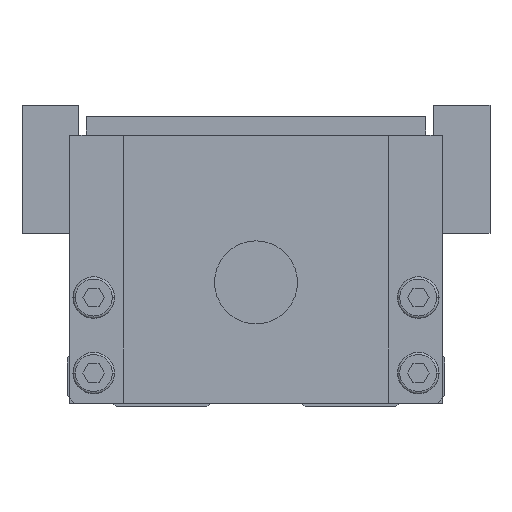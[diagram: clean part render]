
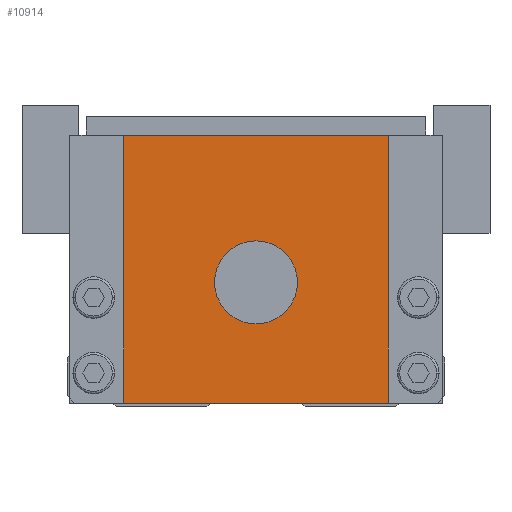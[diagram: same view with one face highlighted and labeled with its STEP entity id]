
A CAD part, front view. The second image highlights one B-rep face of the part: STEP entity #10914.
In plain terms, the highlighted planar face has unit normal (0, -1, 0).
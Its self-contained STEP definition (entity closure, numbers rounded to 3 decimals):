
#3994=VERTEX_POINT('',#11923);
#4272=EDGE_CURVE('',#7620,#3994,#12234,.T.);
#4918=VERTEX_POINT('',#12944);
#5174=EDGE_CURVE('',#11006,#10892,#13229,.T.);
#5404=EDGE_CURVE('',#7620,#10892,#13479,.T.);
#5822=EDGE_CURVE('',#4918,#11548,#13948,.T.);
#6098=EDGE_CURVE('',#11548,#4918,#14249,.T.);
#6934=EDGE_CURVE('',#3994,#11006,#15178,.T.);
#7620=VERTEX_POINT('',#15939);
#10892=VERTEX_POINT('',#19609);
#10914=ADVANCED_FACE('',(#19635,#19636),#19637,.F.);
#11006=VERTEX_POINT('',#19744);
#11548=VERTEX_POINT('',#20344);
#11923=CARTESIAN_POINT('',(17.5,0.0,36.0));
#12234=LINE('',#21217,#21218);
#12944=CARTESIAN_POINT('',(5.5,0.0,16.5));
#13229=LINE('',#22634,#22635);
#13479=LINE('',#22979,#22980);
#13948=CIRCLE('',#23629,5.5);
#14249=CIRCLE('',#24036,5.5);
#15178=LINE('',#25347,#25348);
#15939=CARTESIAN_POINT('',(-17.5,0.0,36.0));
#19609=CARTESIAN_POINT('',(-17.5,0.0,0.5));
#19635=FACE_BOUND('',#31719,.T.);
#19636=FACE_OUTER_BOUND('',#31720,.T.);
#19637=PLANE('',#31721);
#19744=CARTESIAN_POINT('',(17.5,0.0,0.5));
#20344=CARTESIAN_POINT('',(-5.5,0.0,16.5));
#21217=CARTESIAN_POINT('',(0.0,0.0,36.0));
#21218=VECTOR('',#33677,1.0);
#22634=CARTESIAN_POINT('',(0.0,0.0,0.5));
#22635=VECTOR('',#34814,1.0);
#22979=CARTESIAN_POINT('',(-17.5,0.0,18.25));
#22980=VECTOR('',#35073,1.0);
#23629=AXIS2_PLACEMENT_3D('',#35627,#35628,#35629);
#24036=AXIS2_PLACEMENT_3D('',#35950,#35951,#35952);
#25347=CARTESIAN_POINT('',(17.5,0.0,18.25));
#25348=VECTOR('',#36979,1.0);
#31719=EDGE_LOOP('',(#42114,#42115));
#31720=EDGE_LOOP('',(#42116,#42117,#42118,#42119));
#31721=AXIS2_PLACEMENT_3D('',#42120,#42121,#42122);
#33677=DIRECTION('',(1.0,0.0,0.0));
#34814=DIRECTION('',(-1.0,0.0,0.0));
#35073=DIRECTION('',(0.0,0.0,-1.0));
#35627=CARTESIAN_POINT('',(0.0,0.0,16.5));
#35628=DIRECTION('',(-0.0,1.0,0.0));
#35629=DIRECTION('',(1.0,0.0,0.0));
#35950=CARTESIAN_POINT('',(0.0,0.0,16.5));
#35951=DIRECTION('',(-0.0,1.0,0.0));
#35952=DIRECTION('',(1.0,0.0,0.0));
#36979=DIRECTION('',(0.0,0.0,-1.0));
#42114=ORIENTED_EDGE('',*,*,#5822,.T.);
#42115=ORIENTED_EDGE('',*,*,#6098,.T.);
#42116=ORIENTED_EDGE('',*,*,#5404,.T.);
#42117=ORIENTED_EDGE('',*,*,#5174,.F.);
#42118=ORIENTED_EDGE('',*,*,#6934,.F.);
#42119=ORIENTED_EDGE('',*,*,#4272,.F.);
#42120=CARTESIAN_POINT('',(0.0,0.0,18.25));
#42121=DIRECTION('',(0.0,1.0,0.0));
#42122=DIRECTION('',(0.0,0.0,1.0));
